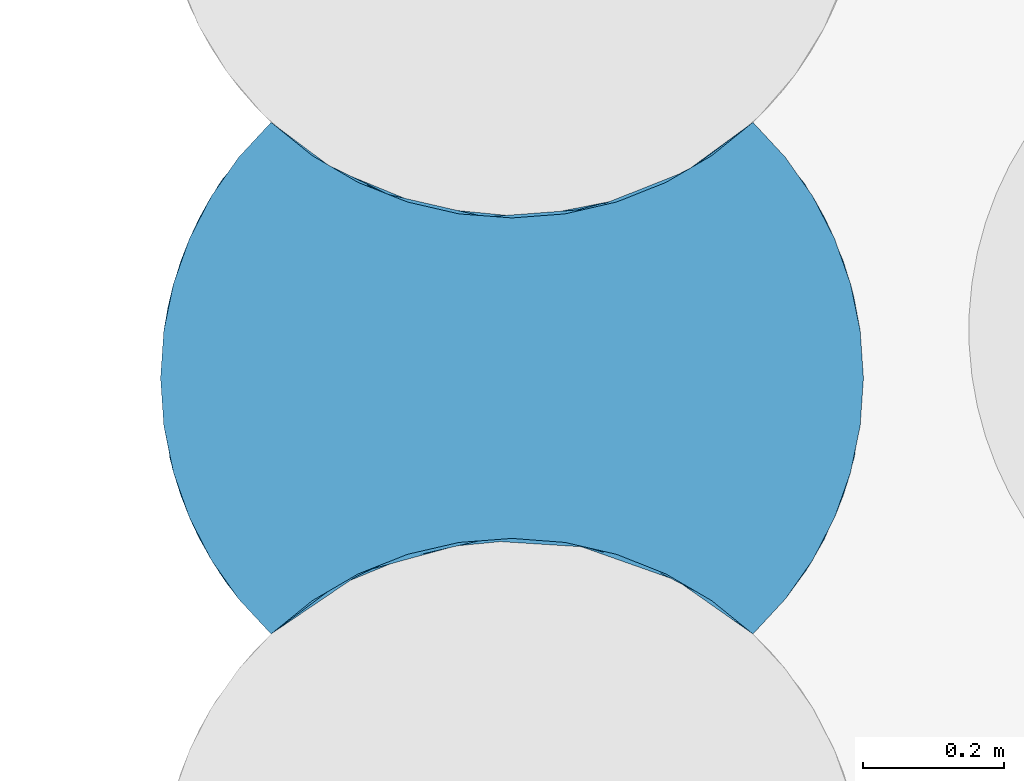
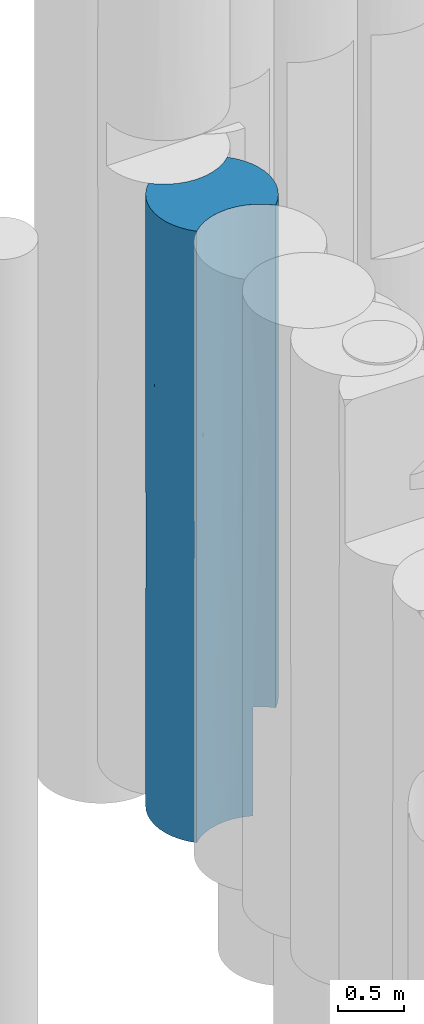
# One storey, part 58 of 104: 1 pile.
"""IFC2X3 building model written with IfcOpenShell, lengths in millimetres."""

from ifc_helpers import new_model, entity, si_unit, converted_unit, derived_unit, direction, frame, origin, place, context, subcontext, project, spatial, faceted_brep, source, transform, mapped, material, element, save


model = new_model("IFC2X3")

# Units and contexts
model_context = context("Model", 3, precision=0.01, world=origin(), true_north=direction((6.12303176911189e-17, 1.0)))
body_context = subcontext(model_context, "Body", "Model", "MODEL_VIEW")
ifc_project = project(units=[si_unit("LENGTHUNIT", "METRE", prefix="MILLI"), si_unit("AREAUNIT", "SQUARE_METRE", prefix="MILLI"), si_unit("VOLUMEUNIT", "CUBIC_METRE"), converted_unit("PLANEANGLEUNIT", "DEGREE", entity("IfcRatioMeasure", 0.0174532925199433), si_unit("PLANEANGLEUNIT", "RADIAN"), dimensions=[0, 0, 0, 0, 0, 0, 0]), si_unit("MASSUNIT", "GRAM", prefix="KILO"), derived_unit("MASSDENSITYUNIT", [(si_unit("MASSUNIT", "GRAM", prefix="KILO"), 1), (si_unit("LENGTHUNIT", "METRE"), -3)]), derived_unit("MOMENTOFINERTIAUNIT", [(si_unit("LENGTHUNIT", "METRE"), 4)]), si_unit("TIMEUNIT", "SECOND"), si_unit("FREQUENCYUNIT", "HERTZ"), si_unit("THERMODYNAMICTEMPERATUREUNIT", "DEGREE_CELSIUS"), derived_unit("THERMALTRANSMITTANCEUNIT", [(si_unit("MASSUNIT", "GRAM", prefix="KILO"), 1), (si_unit("THERMODYNAMICTEMPERATUREUNIT", "KELVIN"), -1), (si_unit("TIMEUNIT", "SECOND"), -3)]), derived_unit("VOLUMETRICFLOWRATEUNIT", [(si_unit("LENGTHUNIT", "METRE"), 3), (si_unit("TIMEUNIT", "SECOND"), -1)]), si_unit("ELECTRICCURRENTUNIT", "AMPERE"), si_unit("ELECTRICVOLTAGEUNIT", "VOLT"), si_unit("POWERUNIT", "WATT"), si_unit("FORCEUNIT", "NEWTON", prefix="KILO"), si_unit("ILLUMINANCEUNIT", "LUX"), si_unit("LUMINOUSFLUXUNIT", "LUMEN"), si_unit("LUMINOUSINTENSITYUNIT", "CANDELA"), derived_unit("USERDEFINED", [(si_unit("MASSUNIT", "GRAM", prefix="KILO"), -1), (si_unit("LENGTHUNIT", "METRE"), -2), (si_unit("TIMEUNIT", "SECOND"), 3), (si_unit("LUMINOUSFLUXUNIT", "LUMEN"), 1)]), derived_unit("LINEARVELOCITYUNIT", [(si_unit("LENGTHUNIT", "METRE"), 1), (si_unit("TIMEUNIT", "SECOND"), -1)]), si_unit("PRESSUREUNIT", "PASCAL"), derived_unit("USERDEFINED", [(si_unit("LENGTHUNIT", "METRE"), -2), (si_unit("MASSUNIT", "GRAM", prefix="KILO"), 1), (si_unit("TIMEUNIT", "SECOND"), -2)]), derived_unit("LINEARFORCEUNIT", [(si_unit("MASSUNIT", "GRAM", prefix="KILO"), 1), (si_unit("LENGTHUNIT", "METRE"), 1), (si_unit("TIMEUNIT", "SECOND"), -2), (si_unit("LENGTHUNIT", "METRE"), -1)]), derived_unit("PLANARFORCEUNIT", [(si_unit("MASSUNIT", "GRAM", prefix="KILO"), 1), (si_unit("LENGTHUNIT", "METRE"), 1), (si_unit("TIMEUNIT", "SECOND"), -2), (si_unit("LENGTHUNIT", "METRE"), -2)])], contexts=[model_context])

# Site, building, storey
site_placement = place(None, origin())
site = spatial("IfcSite", under=ifc_project, at=site_placement, Name="Theater aan de Parade", CompositionType="ELEMENT")
building_placement = place(site_placement, origin())
building = spatial("IfcBuilding", under=site, at=building_placement, Name="Theater aan de Parade", CompositionType="ELEMENT")
storey_placement = place(building_placement, frame((0.0, 0.0, -5520.0)))
storey = spatial("IfcBuildingStorey", under=building, at=storey_placement, Name="-2 kelder", CompositionType="ELEMENT", Elevation=-5520.0)

# Pile
ifc_material = material(Name="00_PBT_MAT_grout")
shared_shape = source(origin(), body_context, "Body", "Brep", [
    faceted_brep([(277.97940604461, 646.386211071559, 0.0), (345.354750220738, 618.633274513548, 0.0), (416.048432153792, 600.967889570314, 0.0), (488.559013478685, 593.765245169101, 0.0), (561.346467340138, 597.17831575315, 0.0), (632.86488648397, 611.134612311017, 0.0), (701.595316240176, 635.337721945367, 0.0), (701.595316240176, 95.8528225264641, 0.0), (632.867156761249, 120.055314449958, 0.0), (561.350615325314, 134.011729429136, 0.0), (488.5644114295, 137.425440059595, 0.0), (416.054292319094, 130.223672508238, 0.0), (345.36021404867, 112.559067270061, 0.0), (277.98364709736, 84.8064540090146, 0.0), (215.356100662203, 47.5551930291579, 0.0), (158.806707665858, 1.59527223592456, 0.0), (112.64402578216, 51.4027709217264, 0.0), (73.6675450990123, 106.987731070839, 0.0), (42.5806423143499, 167.338949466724, 0.0), (19.9546103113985, 231.348213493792, 0.0), (6.20826767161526, 297.833072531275, 0.0), (1.5952722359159, 365.59527223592, 0.0), (6.20801873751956, 433.355652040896, 0.0), (19.9560911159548, 499.847643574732, 0.0), (42.5853143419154, 563.862411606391, 0.0), (73.6765052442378, 624.217639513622, 0.0), (112.656322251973, 679.802995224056, 0.0), (158.806707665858, 729.595272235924, 0.0), (215.353360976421, 683.637264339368, 0.0), (960.608068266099, 563.855840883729, 1000.0), (946.087387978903, 594.56417633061, 2043.5420306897), (985.211956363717, 492.539759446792, 2004.40494479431), (973.010523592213, 532.231585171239, 2936.06258954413), (1001.59527223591, 365.59527223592, 4123.0754599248), (1001.59527223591, 365.59527223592, 2561.53772996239), (890.532271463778, 679.805409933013, 1000.0), (844.38383680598, 729.595272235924, 2561.53752620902), (983.237088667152, 499.838188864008, 1000.0), (946.091900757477, 594.555415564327, 4223.57698205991), (929.522999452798, 624.202813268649, 5620.0), (960.609902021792, 563.851595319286, 5620.0), (890.546518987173, 679.787773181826, 5620.0), (844.383836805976, 729.595272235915, 1000.0), (1001.59527223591, 365.59527223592, 5620.0), (996.982276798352, 433.357471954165, 5620.0), (987.896013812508, 481.834631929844, 4493.17800441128), (1001.59527223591, 365.59527223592, 1000.0), (996.984106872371, 433.344091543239, 1000.0), (929.515196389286, 624.215724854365, 1000.0), (844.383836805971, 729.595272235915, 4123.07548202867), (844.383836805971, 729.595272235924, 5620.0), (917.135332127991, 643.671626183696, 3074.83974006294), (983.235934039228, 499.842331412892, 5620.0), (1.5952722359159, 365.59527223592, 4058.46171462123), (17.9751890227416, 238.663735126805, 4615.57531545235), (6.20826767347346, 297.833072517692, 5620.0), (112.644025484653, 51.4027712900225, 5620.0), (57.0986428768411, 136.635130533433, 4576.47739468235), (158.806707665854, 1.59527223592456, 4058.4873131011), (98.3088047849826, 70.027978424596, 2577.81473400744), (158.806707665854, 1.59527223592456, 1561.53926176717), (158.806707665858, 1.59527223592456, 2810.0), (158.806707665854, 1.5952722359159, 3123.07852353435), (57.0986428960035, 136.635130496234, 1881.64007998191), (30.1799660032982, 198.959114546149, 1018.49061105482), (92.2113005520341, 78.5329728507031, 1018.48909543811), (1.5952722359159, 365.59527223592, 1561.53828537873), (30.1799661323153, 198.959114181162, 3683.93405593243), (14.6406638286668, 252.126292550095, 2044.14052383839), (1.5952722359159, 365.59527223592, 5620.0), (47.1553927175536, 157.066147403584, 2818.58246194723), (15.7920895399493, 247.293675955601, 2928.93200092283), (158.806707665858, 1.59527223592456, 4215.0), (158.806707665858, 1.5952722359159, 5620.0), (1.5952722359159, 365.59527223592, 3123.08894156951), (1.5952722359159, 365.59527223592, 2496.9234292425), (19.9546104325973, 231.348213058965, 5620.0), (42.5806424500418, 167.338949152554, 5620.0), (73.6675450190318, 106.9877312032, 5620.0), (85.057045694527, 89.0163398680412, 3556.80056728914), (158.806707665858, 1.59527223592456, 1405.0), (785.695330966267, 682.150067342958, 5620.0), (720.53458465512, 644.078223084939, 5620.0), (650.386060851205, 616.247075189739, 5620.0), (576.847851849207, 599.29066042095, 5620.0), (501.595272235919, 593.59527223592, 5620.0), (426.342692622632, 599.29066042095, 5620.0), (352.804483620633, 616.247075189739, 5620.0), (282.655959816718, 644.078223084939, 5620.0), (217.495213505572, 682.150067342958, 5620.0), (158.806707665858, 729.595272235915, 5620.0), (112.651085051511, 679.796512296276, 5620.0), (73.6726367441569, 624.211238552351, 5620.0), (42.583337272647, 563.857834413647, 5620.0), (19.9555086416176, 499.845553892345, 5620.0), (6.20818208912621, 433.356846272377, 5620.0), (217.495213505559, 49.040477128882, 5620.0), (282.655959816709, 87.1123213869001, 5620.0), (352.80448362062, 114.943469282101, 5620.0), (426.342692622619, 131.899884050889, 5620.0), (501.595272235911, 137.59527223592, 5620.0), (576.847851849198, 131.899884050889, 5620.0), (650.386060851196, 114.943469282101, 5620.0), (720.534584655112, 87.1123213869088, 5620.0), (785.695330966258, 49.0404771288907, 5620.0), (844.383836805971, 1.59527223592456, 5620.0), (890.539459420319, 51.3940321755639, 5620.0), (929.517907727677, 106.97930591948, 5620.0), (960.607207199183, 167.332710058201, 5620.0), (983.235035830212, 231.344990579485, 5620.0), (996.982362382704, 297.833698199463, 5620.0), (525.019781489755, 137.046263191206, 1462.58901742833), (587.814477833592, 130.105422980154, 2591.068697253), (452.177983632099, 135.147210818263, 2805.10545022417), (743.76903835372, 75.0331158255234, 3410.88829021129), (727.516756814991, 83.6440171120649, 2196.98873537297), (844.383836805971, 1.59527223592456, 2561.53714943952), (800.501613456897, 38.4131849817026, 1000.0), (844.383836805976, 1.5952722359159, 1000.0), (685.986160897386, 102.353273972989, 4626.91651063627), (591.526714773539, 129.441117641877, 4721.05919047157), (605.426497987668, 126.695544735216, 898.40169176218), (245.990356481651, 67.3232408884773, 950.280209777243), (380.385030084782, 122.680911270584, 950.279121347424), (701.595316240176, 95.8528225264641, 1000.0), (333.007787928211, 108.316272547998, 4785.14956697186), (317.204382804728, 102.353273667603, 3942.72019594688), (463.861374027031, 136.16939202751, 4242.78133127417), (752.696294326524, 69.9704295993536, 1000.0), (249.35626130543, 69.3075391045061, 4673.64434517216), (228.762208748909, 56.5966081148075, 3767.41638075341), (777.770487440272, 54.4012828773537, 4669.84707483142), (844.383836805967, 1.59527223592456, 4123.07546187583), (613.937328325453, 124.811099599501, 3836.42558704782), (412.145906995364, 129.529018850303, 1890.87029092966), (222.130764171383, 52.2030250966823, 2117.10639037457), (311.165684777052, 99.91180040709, 1702.74186780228), (291.017044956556, 91.0892746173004, 2828.9313688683), (612.319663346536, 125.181274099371, 1759.0776843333), (946.092882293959, 136.637034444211, 2936.01182014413), (925.562730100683, 100.54509835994, 2004.37665064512), (973.008888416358, 198.954333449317, 4223.57134166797), (988.918248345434, 253.718925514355, 3074.8464196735), (973.014264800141, 198.969543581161, 2043.51622486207), (960.612854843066, 167.345785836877, 1000.0), (983.239874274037, 231.362350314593, 1000.0), (929.521362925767, 106.985023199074, 1000.0), (919.609014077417, 91.2514885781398, 4493.22792096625), (996.985169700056, 297.854224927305, 1000.0), (890.538738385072, 51.3931396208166, 1000.0), (701.595316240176, 635.337721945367, 1000.0), (752.696294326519, 661.220114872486, 1000.0), (800.501613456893, 692.777359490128, 1000.0), (245.986883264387, 663.869369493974, 924.251187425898), (380.379355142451, 608.51105125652, 924.251187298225), (158.806707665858, 729.595272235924, 1561.52302486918), (234.512976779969, 670.905022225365, 2528.80376699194), (311.160834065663, 631.280742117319, 1643.56812608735), (233.559655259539, 671.508897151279, 1720.96187129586), (249.356261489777, 661.883005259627, 4653.15188060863), (613.937329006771, 606.379445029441, 4657.58649053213), (753.83428304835, 661.883005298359, 4657.58649064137), (463.861374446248, 595.021152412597, 4239.5390883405), (568.099076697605, 598.037763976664, 3565.77457710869), (525.014998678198, 594.144056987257, 1444.26971557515), (229.918359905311, 673.843374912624, 3590.76885371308), (158.806707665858, 729.595272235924, 3123.07126894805), (158.806707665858, 729.595272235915, 4058.47697513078), (463.861374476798, 595.021152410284, 2816.12114792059), (317.204383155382, 628.837270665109, 3895.88285817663), (335.864811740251, 621.860797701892, 2764.0603545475), (335.460540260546, 622.003021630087, 4756.81358510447), (668.838076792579, 622.394843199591, 2439.83993839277), (744.325148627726, 656.465763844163, 2923.53518867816), (764.865709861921, 668.520365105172, 2048.02697211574), (605.973391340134, 604.611419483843, 894.964203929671), (685.986161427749, 628.837270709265, 3905.98762819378), (772.723458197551, 673.488730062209, 3773.13756015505), (414.779582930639, 601.189914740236, 1897.22189988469), (566.969277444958, 597.887455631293, 2589.73783886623), (17.9787582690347, 492.540407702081, 1004.43543176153), (57.1053069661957, 594.568350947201, 1043.55298007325), (11.9519782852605, 466.834813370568, 4676.3946062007), (84.3608238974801, 641.122793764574, 3590.76885494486), (57.1024528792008, 594.56281041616, 4676.3986711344), (30.1816560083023, 532.236210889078, 3903.0623204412), (43.3358883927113, 565.591114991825, 2919.58806006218), (11.3886370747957, 464.070928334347, 2700.90834273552), (89.6394428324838, 648.954398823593, 2342.3065648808), (30.1828483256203, 532.239583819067, 1936.10278621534)], [[[0, 1, 2, 3, 4, 5, 6, 7, 8, 9, 10, 11, 12, 13, 14, 15, 16, 17, 18, 19, 20, 21, 22, 23, 24, 25, 26, 27, 28]], [[29, 30, 31]], [[32, 33, 34]], [[35, 36, 30]], [[37, 29, 31]], [[38, 39, 40]], [[39, 38, 41]], [[35, 42, 36]], [[43, 33, 44]], [[45, 44, 33]], [[46, 47, 34]], [[30, 29, 48]], [[35, 30, 48]], [[38, 40, 45]], [[30, 32, 31]], [[41, 38, 49]], [[49, 50, 41]], [[32, 38, 45]], [[51, 32, 30]], [[38, 32, 51]], [[47, 37, 31]], [[52, 45, 40]], [[49, 51, 36]], [[32, 34, 31]], [[51, 49, 38]], [[47, 31, 34]], [[51, 30, 36]], [[44, 45, 52]], [[32, 45, 33]], [[53, 54, 55]], [[56, 57, 58]], [[59, 60, 61, 62]], [[63, 64, 65]], [[65, 18, 17]], [[20, 64, 66]], [[67, 57, 54]], [[64, 68, 66]], [[66, 21, 20]], [[55, 69, 53]], [[68, 70, 71]], [[16, 65, 17]], [[68, 64, 63]], [[56, 58, 72, 73]], [[20, 19, 64]], [[71, 53, 74, 75]], [[76, 54, 77]], [[77, 57, 78]], [[79, 59, 62]], [[57, 77, 54]], [[79, 58, 57]], [[65, 15, 80, 60]], [[56, 78, 57]], [[65, 64, 18]], [[79, 57, 67]], [[19, 18, 64]], [[15, 65, 16]], [[59, 65, 60]], [[68, 63, 70]], [[66, 68, 75]], [[59, 70, 63]], [[58, 79, 62]], [[55, 54, 76]], [[53, 67, 54]], [[70, 79, 67]], [[59, 63, 65]], [[79, 70, 59]], [[70, 67, 71]], [[53, 71, 67]], [[75, 68, 71]], [[81, 82, 83, 84, 85, 86, 87, 88, 89, 90, 91, 92, 93, 94, 95, 69, 55, 76, 77, 78, 56, 73, 96, 97, 98, 99, 100, 101, 102, 103, 104, 105, 106, 107, 108, 109, 110, 43, 44, 52, 40, 39, 41, 50]], [[111, 112, 113]], [[114, 112, 115]], [[116, 117, 118]], [[119, 102, 120]], [[9, 121, 111]], [[14, 122, 15]], [[111, 123, 10]], [[7, 124, 8]], [[125, 126, 127]], [[103, 102, 119]], [[124, 128, 115]], [[126, 129, 130]], [[12, 123, 13]], [[129, 72, 130]], [[105, 131, 132]], [[103, 119, 131]], [[114, 119, 133]], [[128, 117, 115]], [[133, 119, 120]], [[111, 134, 123]], [[123, 11, 10]], [[80, 122, 135]], [[11, 123, 12]], [[114, 131, 119]], [[73, 129, 96]], [[122, 123, 136]], [[98, 97, 125]], [[127, 126, 113]], [[61, 135, 137]], [[122, 14, 13]], [[104, 103, 131]], [[122, 13, 123]], [[101, 120, 102]], [[100, 99, 127]], [[137, 134, 113]], [[137, 130, 61]], [[125, 127, 99]], [[126, 125, 129]], [[124, 121, 8]], [[133, 113, 112]], [[113, 133, 127]], [[96, 129, 97]], [[120, 101, 100]], [[111, 10, 9]], [[136, 123, 134]], [[15, 122, 80]], [[72, 129, 73]], [[114, 116, 132]], [[116, 115, 117]], [[121, 138, 111]], [[114, 115, 116]], [[136, 134, 137]], [[113, 134, 111]], [[126, 130, 137]], [[130, 72, 58, 62, 61]], [[126, 137, 113]], [[135, 136, 137]], [[136, 135, 122]], [[135, 61, 60, 80]], [[120, 127, 133]], [[127, 120, 100]], [[133, 112, 114]], [[121, 124, 138]], [[129, 125, 97]], [[99, 98, 125]], [[8, 121, 9]], [[112, 111, 138]], [[138, 115, 112]], [[115, 138, 124]], [[104, 131, 105]], [[132, 131, 114]], [[139, 132, 116]], [[139, 116, 140]], [[141, 139, 142]], [[143, 140, 144]], [[143, 144, 145]], [[146, 144, 140]], [[142, 33, 141]], [[33, 43, 110]], [[106, 132, 147]], [[105, 132, 106]], [[143, 148, 34]], [[149, 140, 116]], [[142, 139, 143]], [[118, 149, 116]], [[148, 143, 145]], [[110, 109, 141]], [[140, 149, 146]], [[141, 147, 139]], [[148, 46, 34]], [[108, 147, 141]], [[107, 147, 108]], [[143, 139, 140]], [[110, 141, 33]], [[142, 143, 34]], [[33, 142, 34]], [[141, 109, 108]], [[106, 147, 107]], [[139, 147, 132]], [[35, 48, 29, 37, 47, 46, 148, 145, 144, 146, 149, 118, 117, 128, 124, 150, 151, 152, 42]], [[124, 7, 6, 150]], [[153, 154, 1, 0]], [[155, 153, 27]], [[156, 157, 158]], [[159, 89, 88]], [[153, 157, 154]], [[84, 160, 85]], [[49, 161, 50]], [[28, 27, 153]], [[162, 160, 163]], [[162, 86, 85]], [[161, 81, 50]], [[160, 83, 82, 161]], [[164, 4, 3]], [[165, 166, 167]], [[168, 169, 162]], [[158, 157, 153]], [[165, 170, 156]], [[171, 159, 88]], [[172, 173, 174]], [[150, 172, 174]], [[2, 154, 3]], [[5, 175, 150]], [[159, 167, 90]], [[176, 163, 160]], [[5, 150, 6]], [[177, 161, 49]], [[171, 169, 159]], [[174, 36, 42]], [[171, 87, 86]], [[154, 164, 3]], [[160, 161, 176]], [[171, 88, 87]], [[0, 28, 153]], [[172, 175, 164]], [[152, 174, 42]], [[162, 85, 160]], [[5, 4, 175]], [[170, 178, 157]], [[161, 82, 81]], [[2, 1, 154]], [[176, 172, 163]], [[154, 157, 178]], [[176, 161, 177]], [[84, 83, 160]], [[168, 164, 178]], [[89, 159, 90]], [[167, 159, 165]], [[163, 168, 162]], [[172, 179, 163]], [[179, 168, 163]], [[174, 151, 150]], [[154, 178, 164]], [[169, 168, 170]], [[178, 170, 168]], [[165, 169, 170]], [[156, 166, 165]], [[169, 165, 159]], [[166, 156, 155]], [[156, 170, 157]], [[172, 176, 173]], [[177, 49, 36]], [[171, 162, 169]], [[162, 171, 86]], [[158, 155, 156]], [[158, 153, 155]], [[179, 164, 168]], [[179, 172, 164]], [[150, 175, 172]], [[164, 175, 4]], [[151, 174, 152]], [[177, 36, 173]], [[174, 173, 36]], [[177, 173, 176]], [[180, 24, 23]], [[26, 181, 155]], [[69, 95, 182]], [[21, 66, 22]], [[26, 25, 181]], [[183, 184, 167]], [[66, 180, 22]], [[183, 167, 166]], [[184, 182, 94]], [[180, 181, 24]], [[185, 183, 186]], [[91, 184, 92]], [[182, 95, 94]], [[187, 66, 75, 74]], [[188, 183, 166]], [[74, 53, 185]], [[27, 26, 155]], [[184, 93, 92]], [[185, 186, 187]], [[91, 90, 167]], [[184, 94, 93]], [[184, 91, 167]], [[25, 24, 181]], [[189, 181, 180]], [[182, 184, 185]], [[188, 181, 189]], [[185, 53, 182]], [[69, 182, 53]], [[166, 155, 188]], [[184, 183, 185]], [[181, 188, 155]], [[186, 188, 189]], [[22, 180, 23]], [[66, 189, 180]], [[188, 186, 183]], [[187, 186, 189]], [[66, 187, 189]], [[185, 187, 74]]]),
])
pile_placement = place(storey_placement, frame((34252.2628578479, 42815.2179922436, -3840.0)))
element("IfcPile", 1, at=pile_placement, inside=storey, material=ifc_material, Name="17_PBT_SFO_grondkering_rond:Ø1000 (grondkering)", ObjectType="17_PBT_SFO_grondkering_rond:Ø1000 (grondkering)", PredefinedType="NOTDEFINED", context=body_context, shape_type="MappedRepresentation", body=[
    mapped(shared_shape, transform((0.0, 0.0, 0.0), scale=1.0)),
])

save(model, "model.ifc")
